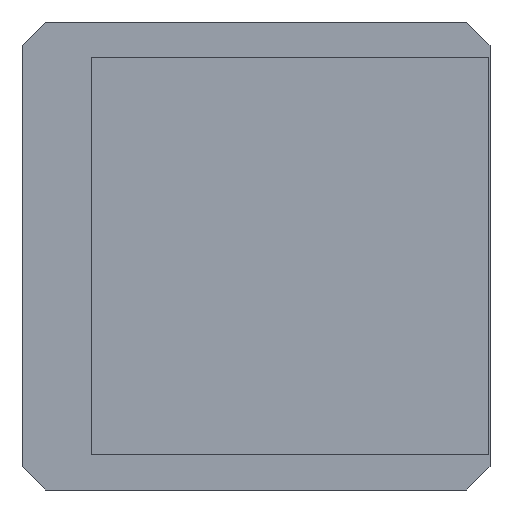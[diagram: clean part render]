
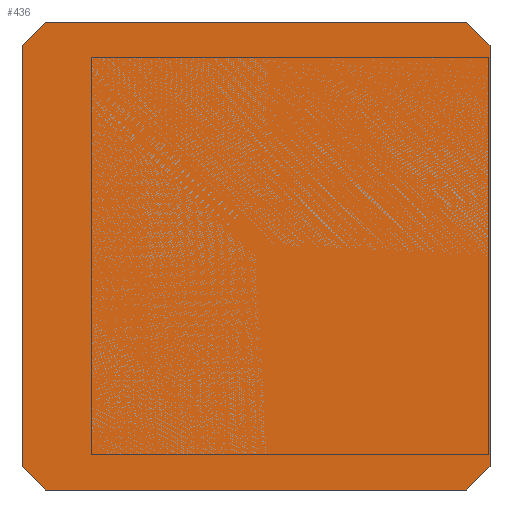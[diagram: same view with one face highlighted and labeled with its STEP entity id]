
A CAD part, front view. The second image highlights one B-rep face of the part: STEP entity #436.
In plain terms, the highlighted planar face has unit normal (0, -1, 0).
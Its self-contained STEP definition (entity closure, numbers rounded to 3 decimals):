
#57=DIRECTION('',(0.,0.,-1.));
#58=VECTOR('',#57,3.6);
#59=CARTESIAN_POINT('',(0.,-5.,1.8));
#60=LINE('',#59,#58);
#61=DIRECTION('',(0.707,0.,-0.707));
#62=VECTOR('',#61,0.283);
#63=CARTESIAN_POINT('',(0.,-5.,-1.8));
#64=LINE('',#63,#62);
#65=DIRECTION('',(-0.707,0.,-0.707));
#66=VECTOR('',#65,0.283);
#67=CARTESIAN_POINT('',(0.2,-5.,2.));
#68=LINE('',#67,#66);
#69=DIRECTION('',(1.,0.,0.));
#70=VECTOR('',#69,3.6);
#71=CARTESIAN_POINT('',(0.2,-5.,2.));
#72=LINE('',#71,#70);
#73=DIRECTION('',(-0.707,0.,0.707));
#74=VECTOR('',#73,0.283);
#75=CARTESIAN_POINT('',(4.,-5.,1.8));
#76=LINE('',#75,#74);
#77=DIRECTION('',(0.707,0.,0.707));
#78=VECTOR('',#77,0.283);
#79=CARTESIAN_POINT('',(3.8,-5.,-2.));
#80=LINE('',#79,#78);
#188=DIRECTION('',(0.,0.,-1.));
#189=VECTOR('',#188,3.6);
#190=CARTESIAN_POINT('',(4.,-5.,1.8));
#191=LINE('',#190,#189);
#289=DIRECTION('',(1.,0.,0.));
#290=VECTOR('',#289,3.6);
#291=CARTESIAN_POINT('',(0.2,-5.,-2.));
#292=LINE('',#291,#290);
#356=CARTESIAN_POINT('',(3.8,-5.,-2.));
#357=VERTEX_POINT('',#356);
#358=CARTESIAN_POINT('',(4.,-5.,-1.8));
#359=VERTEX_POINT('',#358);
#360=CARTESIAN_POINT('',(0.,-5.,-1.8));
#361=CARTESIAN_POINT('',(0.2,-5.,-2.));
#362=VERTEX_POINT('',#360);
#363=VERTEX_POINT('',#361);
#372=CARTESIAN_POINT('',(4.,-5.,1.8));
#373=VERTEX_POINT('',#372);
#374=CARTESIAN_POINT('',(3.8,-5.,2.));
#375=VERTEX_POINT('',#374);
#380=CARTESIAN_POINT('',(0.2,-5.,2.));
#381=VERTEX_POINT('',#380);
#382=CARTESIAN_POINT('',(0.,-5.,1.8));
#383=VERTEX_POINT('',#382);
#415=CARTESIAN_POINT('',(0.,-5.,2.));
#416=DIRECTION('',(0.,-1.,0.));
#417=DIRECTION('',(0.,0.,-1.));
#418=AXIS2_PLACEMENT_3D('',#415,#416,#417);
#419=PLANE('',#418);
#420=ORIENTED_EDGE('',*,*,#405,.F.);
#421=ORIENTED_EDGE('',*,*,#395,.F.);
#423=ORIENTED_EDGE('',*,*,#422,.F.);
#425=ORIENTED_EDGE('',*,*,#424,.T.);
#427=ORIENTED_EDGE('',*,*,#426,.F.);
#429=ORIENTED_EDGE('',*,*,#428,.T.);
#431=ORIENTED_EDGE('',*,*,#430,.F.);
#433=ORIENTED_EDGE('',*,*,#432,.F.);
#434=EDGE_LOOP('',(#420,#421,#423,#425,#427,#429,#431,#433));
#435=FACE_OUTER_BOUND('',#434,.F.);
#395=EDGE_CURVE('',#383,#362,#60,.T.);
#405=EDGE_CURVE('',#362,#363,#64,.T.);
#422=EDGE_CURVE('',#381,#383,#68,.T.);
#424=EDGE_CURVE('',#381,#375,#72,.T.);
#426=EDGE_CURVE('',#373,#375,#76,.T.);
#428=EDGE_CURVE('',#373,#359,#191,.T.);
#430=EDGE_CURVE('',#357,#359,#80,.T.);
#432=EDGE_CURVE('',#363,#357,#292,.T.);
#436=ADVANCED_FACE('',(#435),#419,.T.);
